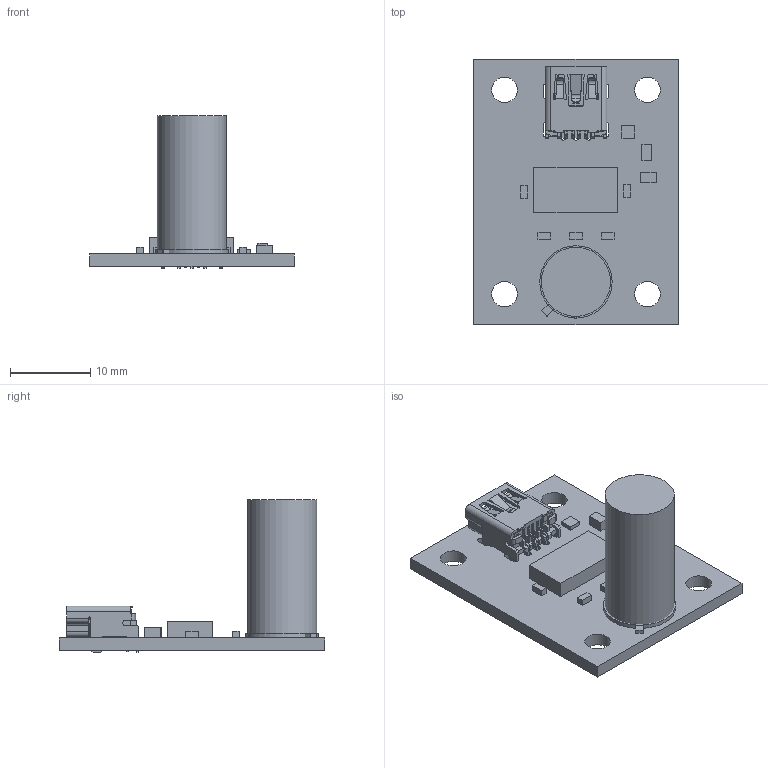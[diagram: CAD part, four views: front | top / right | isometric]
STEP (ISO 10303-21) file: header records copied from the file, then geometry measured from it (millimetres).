
FILE_DESCRIPTION(('Open CASCADE Model'),'2;1');
FILE_NAME('Open CASCADE Shape Model','2010-10-27T12:22:40',('Author'),( 'Open CASCADE'),'Open CASCADE STEP processor 6.2','Open CASCADE 6.2' ,'Unknown');
FILE_SCHEMA(('AUTOMOTIVE_DESIGN { 1 0 10303 214 1 1 1 1 }'));
Length unit declared in the file: millimetre
Products named in the file (34): PCB; Board; C1; 489472960; Extruded; C2; 489473088; C3; C4; 489473600; J1; 548190519; Open CASCADE STEP translator 6.2 167.6.1.1; Open CASCADE STEP translator 6.2 167.6.1.2; L1; 603626384; R1; R2; R3; 489472832; U1; 603630096; U2; 603647888; 523125712; Cylinder; 523124480
Assembly tree (36 placements, depth 4):
  PCB
    Board
    C1
      489472960
        Extruded
    C2
      489473088
        Extruded
    C3
      489473088
        Extruded
    C4
      489473600
        Extruded
    J1
      548190519
        Open CASCADE STEP translator 6.2 167.6.1.1
        Open CASCADE STEP translator 6.2 167.6.1.2
    L1
      603626384
        Extruded
    R1
      489472960
        Extruded
    R2
      489472960
        Extruded
    R3
      489472832
        Extruded
    U1
      603630096
        Extruded
    U2
      603647888
        Extruded
      523125712
        Cylinder
      523124480
        Cylinder
Bounding box: 25.4 x 33.02 x 19 mm (x, y, z)
Volume: 2567.3 mm3; surface area: 3503.6 mm2
Topology: 14 solids, 14 shells, 526 faces, 1469 edges, 974 vertices
Faces by surface type: plane 417, cylinder 83, bspline 18, cone 8
Full cylindrical faces by diameter (mm): 0.8 x5, 0.889 x4, 3.175 x4, 8.6 x1, 9 x1
Entity records: 38956 total; most frequent: CARTESIAN_POINT 10542, DIRECTION 4975, LINE 3507, VECTOR 3507, ORIENTED_EDGE 2830, PCURVE 2830, DEFINITIONAL_REPRESENTATION 2830, EDGE_CURVE 1415
